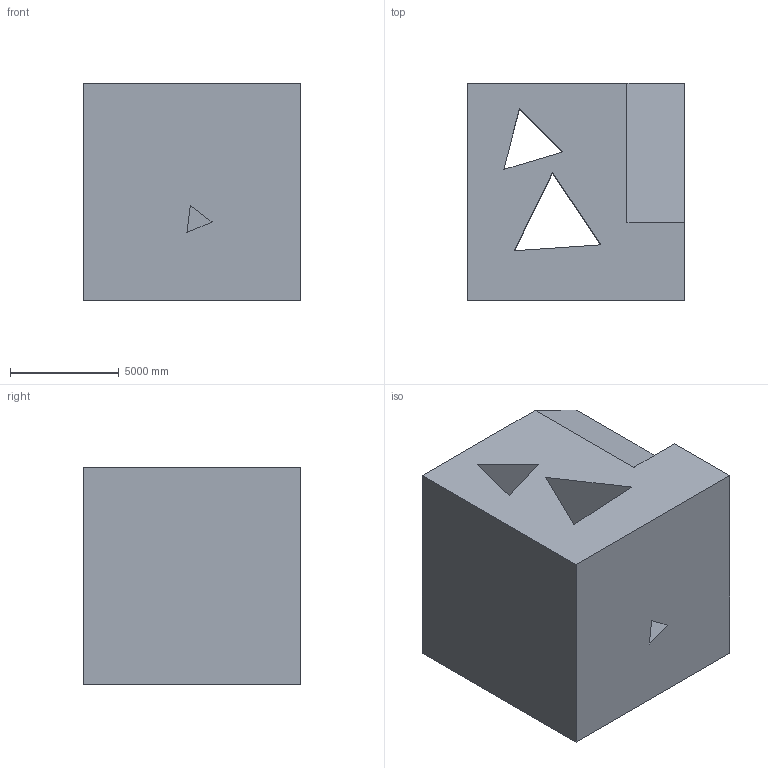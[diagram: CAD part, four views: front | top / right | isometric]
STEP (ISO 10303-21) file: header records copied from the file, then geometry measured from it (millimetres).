
FILE_DESCRIPTION (( 'STEP AP203' ), '1' );
FILE_NAME ('1389.STEP', '2022-08-18T14:11:34', ( 'user' ), ( '' ), 'SwSTEP 2.0', 'SolidWorks 2021', '' );
FILE_SCHEMA (( 'CONFIG_CONTROL_DESIGN' ));
Length unit declared in the file: centimetre
Products named in the file (1): 1389
Bounding box: 10000 x 10000 x 10000 mm (x, y, z)
Volume: 880641856847.2 mm3; surface area: 798362206.1 mm2
Topology: 1 solids, 1 shells, 21 faces, 54 edges, 36 vertices
Faces by surface type: plane 21
Entity records: 717 total; most frequent: CARTESIAN_POINT 112, ORIENTED_EDGE 108, DIRECTION 98, LINE 54, VECTOR 54, EDGE_CURVE 54, VERTEX_POINT 36, EDGE_LOOP 28
